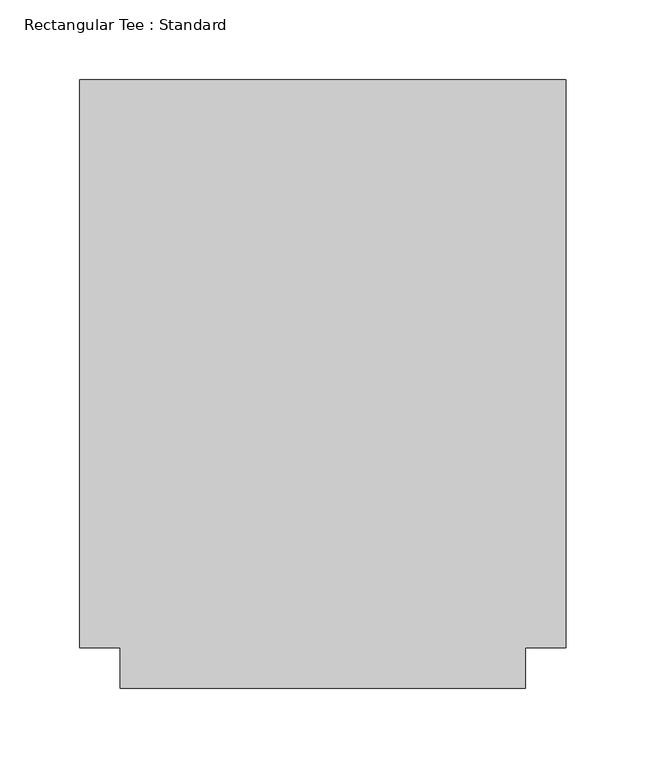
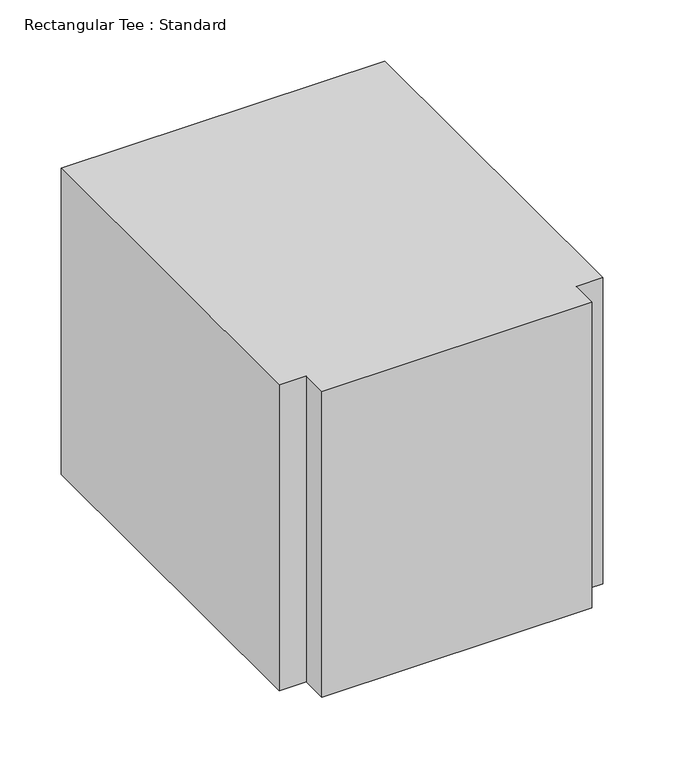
"""IFC4 building model written with IfcOpenShell, lengths in millimetres: duct fitting geometry, Rectangular Tee : Standard."""

from ifc_helpers import new_model, si_unit, frame, origin, place, context, project, spatial, polyline, outline, extrude, source, transform, mapped, element, save


def rectangular_tee_standard_0ce2a782(model_context):
    return source(origin(), model_context, "Body", "SweptSolid", [
        extrude(outline(polyline([(-152.4, -177.8), (-152.4, 177.8), (152.4, 177.8), (152.4, -177.8), (127.0, -177.8), (127.0, -203.2), (-127.0, -203.2), (-127.0, -177.8), (-152.4, -177.8)])), frame((0.0, 0.0, -152.4), z_axis=(0.0, 0.0, 1.0), x_axis=(1.0, 0.0, 0.0)), (0.0, 0.0, 1.0), 304.8),
    ])


if __name__ == "__main__":
    model = new_model("IFC4")
    model_context = context("Model", 3, world=origin())
    ifc_project = project(units=[si_unit("LENGTHUNIT", "METRE", prefix="MILLI")], contexts=[model_context])
    site = spatial("IfcSite", under=ifc_project)
    building = spatial("IfcBuilding", under=site)
    placement = place(None, origin())
    rectangular_tee_standard_shape = rectangular_tee_standard_0ce2a782(model_context)
    element("IfcDuctFitting", 1, ObjectType="Rectangular Tee : Standard", at=placement, inside=building, context=model_context, shape_type="MappedRepresentation", body=[
        mapped(rectangular_tee_standard_shape, transform((0.0, 0.0, 0.0), x_axis=(1.0, 0.0, 0.0), y_axis=(0.0, 1.0, 0.0), z_axis=(0.0, 0.0, 1.0))),
    ])
    save(model, "model.ifc")
